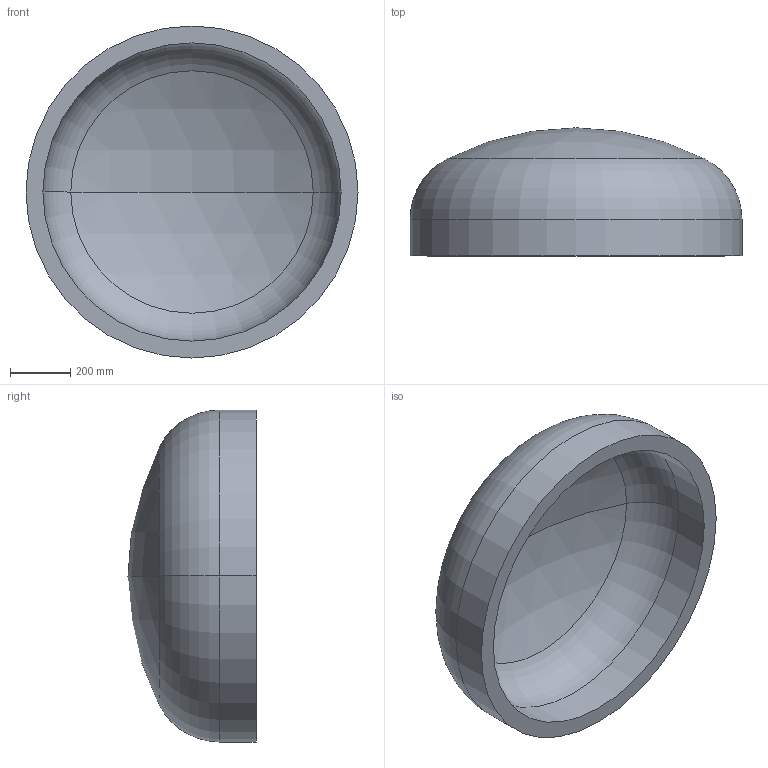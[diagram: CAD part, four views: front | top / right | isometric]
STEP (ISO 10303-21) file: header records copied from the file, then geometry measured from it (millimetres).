
FILE_DESCRIPTION (( 'STEP AP203' ), '1' );
FILE_NAME ('DIN 28013 Korbbogenform_-_Boden DIN 28013 - 1100 x 120 - I - s=56.step', '2016-07-01T09:10:39', ( '' ), ( '' ), 'SwSTEP 2.0', 'SolidWorks 2013', '' );
FILE_SCHEMA (( 'CONFIG_CONTROL_DESIGN' ));
Length unit declared in the file: millimetre
Products named in the file (1): DIN 28013 Korbbogenform_-_Boden DIN 28013 - 1100 x 120 - I - s=56
Bounding box: 1100 x 424.24 x 1100 mm (x, y, z)
Volume: 91133249.4 mm3; surface area: 3444996.3 mm2
Topology: 1 solids, 1 shells, 13 faces, 24 edges, 14 vertices
Faces by surface type: torus 4, cylinder 4, sphere 4, plane 1
Entity records: 407 total; most frequent: DIRECTION 72, CARTESIAN_POINT 52, ORIENTED_EDGE 48, AXIS2_PLACEMENT_3D 34, EDGE_CURVE 24, CIRCLE 20, EDGE_LOOP 14, VERTEX_POINT 14
